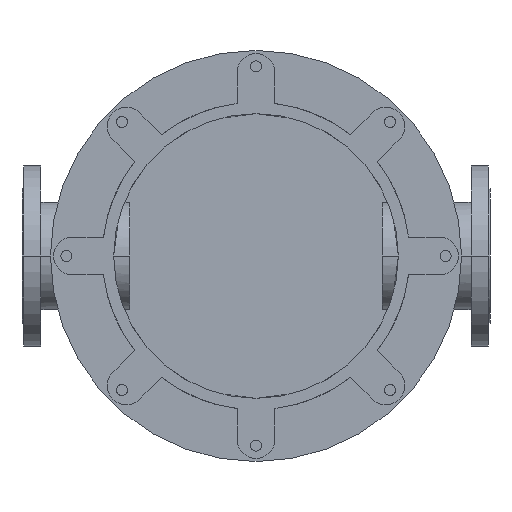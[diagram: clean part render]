
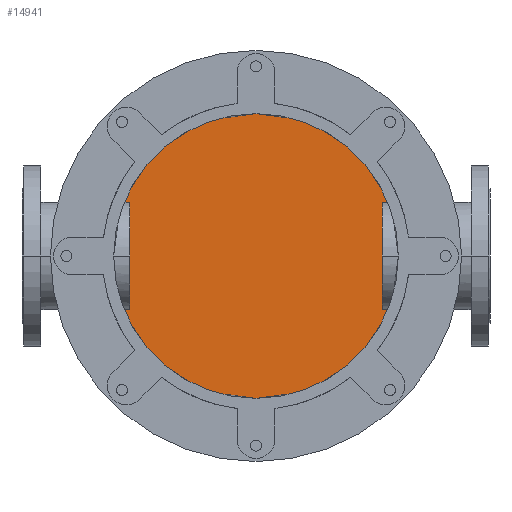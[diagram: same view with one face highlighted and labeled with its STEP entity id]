
A CAD part, front view. The second image highlights one B-rep face of the part: STEP entity #14941.
In plain terms, the highlighted planar face has unit normal (0, -1, 0).
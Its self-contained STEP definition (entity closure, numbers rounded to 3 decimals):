
#3895=CARTESIAN_POINT('',(0.,1172.,0.));
#3896=DIRECTION('',(0.,-1.,0.));
#3897=DIRECTION('',(0.,0.,1.));
#3898=AXIS2_PLACEMENT_3D('',#3895,#3896,#3897);
#4021=CARTESIAN_POINT('',(0.,1172.,0.));
#4022=DIRECTION('',(0.,-1.,0.));
#4023=DIRECTION('',(0.,0.,-1.));
#4024=AXIS2_PLACEMENT_3D('',#4021,#4022,#4023);
#9163=CARTESIAN_POINT('',(0.,1172.,240.));
#9164=CARTESIAN_POINT('',(0.,1172.,-240.));
#9165=VERTEX_POINT('',#9163);
#9166=VERTEX_POINT('',#9164);
#14931=CARTESIAN_POINT('',(0.,1172.,0.));
#14932=DIRECTION('',(0.,1.,0.));
#14933=DIRECTION('',(0.,0.,-1.));
#14934=AXIS2_PLACEMENT_3D('',#14931,#14932,#14933);
#14935=PLANE('',#14934);
#14936=ORIENTED_EDGE('',*,*,#14915,.F.);
#14938=ORIENTED_EDGE('',*,*,#14937,.F.);
#14939=EDGE_LOOP('',(#14936,#14938));
#14940=FACE_OUTER_BOUND('',#14939,.F.);
#14941=ADVANCED_FACE('',(#14940),#14935,.F.);
#3899=CIRCLE('',#3898,240.);
#4025=CIRCLE('',#4024,240.);
#14915=EDGE_CURVE('',#9165,#9166,#3899,.T.);
#14937=EDGE_CURVE('',#9166,#9165,#4025,.T.);
